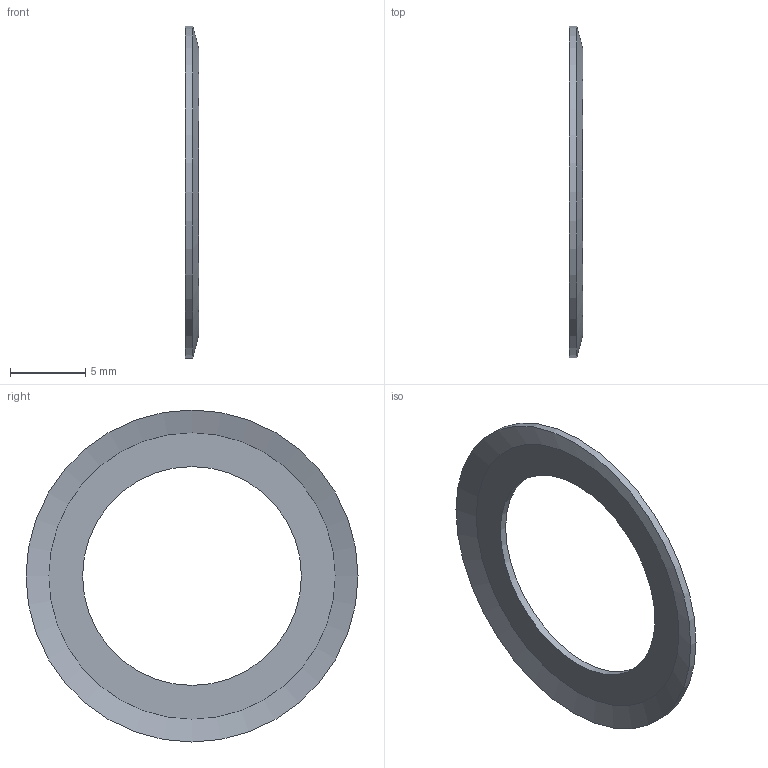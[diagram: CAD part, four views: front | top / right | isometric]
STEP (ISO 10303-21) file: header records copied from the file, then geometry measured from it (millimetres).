
FILE_DESCRIPTION(/* description */ ('FLANGIA TIPO 512'),/* implementation_level */ '2;1');
FILE_NAME(/* name */ 'w:\documenti\Disegni dwg\Catalogo\Flange\Nuova cartella\49200512.stp',/* time_stamp */ '2023-05-09T11:49:56+02:00',/* author */ ('carlo.bersi'),/* organization */ (''),/* preprocessor_version */ 'ST-DEVELOPER v19',/* originating_system */ 'Autodesk Inventor 2023',/* authorisation */ '');
FILE_SCHEMA (('CONFIG_CONTROL_DESIGN'));
Length unit declared in the file: millimetre
Products named in the file (1): 49200512
Bounding box: 0.9 x 22 x 22 mm (x, y, z)
Volume: 107.5 mm3; surface area: 494.2 mm2
Topology: 1 solids, 1 shells, 6 faces, 10 edges, 6 vertices
Faces by surface type: cone 2, cylinder 2, plane 2
Full cylindrical faces by diameter (mm): 14.5 x1, 22 x1
Entity records: 191 total; most frequent: DIRECTION 30, CARTESIAN_POINT 23, ORIENTED_EDGE 20, AXIS2_PLACEMENT_3D 13, EDGE_CURVE 10, EDGE_LOOP 8, FACE_OUTER_BOUND 6, CIRCLE 6
